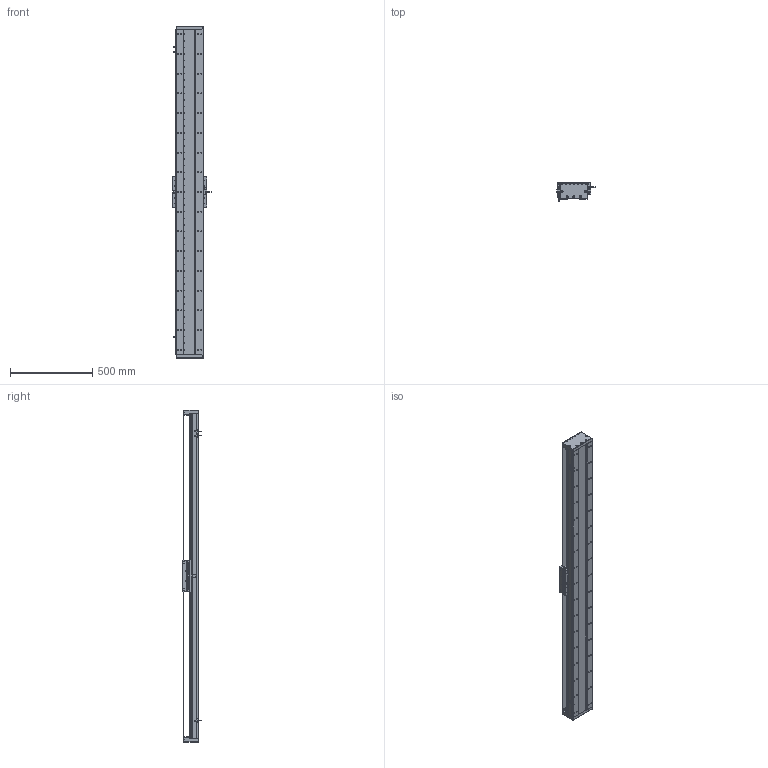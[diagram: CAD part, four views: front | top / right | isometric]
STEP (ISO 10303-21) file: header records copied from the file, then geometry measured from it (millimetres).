
FILE_DESCRIPTION (( 'STEP AP203' ), '1' );
FILE_NAME ('DA-C165-C2-T1740-C010-0.2 直线电机.STEP', '2023-05-11T07:42:53', ( '微软用户' ), ( '微软中国' ), 'SwSTEP 2.0', 'SolidWorks 2019', '' );
FILE_SCHEMA (( 'CONFIG_CONTROL_DESIGN' ));
Length unit declared in the file: millimetre
Products named in the file (18): 葩璃 CKM01-W075-TRL^DA-C165-C2-T-C010-0.2-N 眻盄萇儂; 复件 CU165钢带组件^DA-C165-C2-T-C010-0.2-N 直线电机; 复件 DA165-GDYK-00 钢带压块^复件 CU165钢带组件_DA-C165-C2-T-C010-0.2-N 直线电机; 复件 DMA-010-0.2 读数头^DA-C165-C2-T-C010-0.2-N 直线电机; IU-CU165-L-00 菁釱_L1980; 珨极趙賑雄怢啣wf-C2; DA-C165-C2-T1740-C010-0.2 眻盄萇儂; 复件 DA165-GD-1860-002-00 钢带盖板^复件 CU165钢带组件_DA-C165-C2-T-C010-0.2-N 直线电机; 复件 DA165-GD-DG-H-00 端盖^复件 CU165钢带组件_DA-C165-C2-T-C010-0.2-N 直线电机; IU-CU165-L 菁釱絳寢; 复件 DA165-GYP-00 光电感应片^DA-C165-C2-T-C010-0.2-N 直线电机; 复件 六角薄螺母 M3^DA-C165-C2-T-C010-0.2-N 直线电机_GB_FASTENER_NUT_STNAB M3-C; 复件 DA95-HXJ-00 缓冲橡胶^DA-C165-C2-T-C010-0.2-N 直线电机; 葩璃 PM-T45^DA-C165-C2-T-C010-0.2-N 眻盄萇儂; 葩璃 DA95-GT-T-00^IU-CU165-L 菁釱絳寢_T; 复件 CKM02-W075-C1C2-TP-3.0 一体电机-C2^DA-C165-C2-T-C010-0.2-N 直线电机; 复件 DA165-GDLK-00 钢带拉块^复件 CU165钢带组件_DA-C165-C2-T-C010-0.2-N 直线电机; 复件 XD-U-02L 磁栅尺^DA-C165-C2-T-C010-0.2-N 直线电机_T
Assembly tree (33 placements, depth 3):
  DA-C165-C2-T1740-C010-0.2 眻盄萇儂
    IU-CU165-L 菁釱絳寢
      IU-CU165-L-00 菁釱_L1980
      葩璃 DA95-GT-T-00^IU-CU165-L 菁釱絳寢_T  x4
    复件 XD-U-02L 磁栅尺^DA-C165-C2-T-C010-0.2-N 直线电机_T
    葩璃 PM-T45^DA-C165-C2-T-C010-0.2-N 眻盄萇儂  x3
    葩璃 CKM01-W075-TRL^DA-C165-C2-T-C010-0.2-N 眻盄萇儂
    复件 CU165钢带组件^DA-C165-C2-T-C010-0.2-N 直线电机
      复件 DA165-GD-DG-H-00 端盖^复件 CU165钢带组件_DA-C165-C2-T-C010-0.2-N 直线电机  x2
      复件 DA165-GDYK-00 钢带压块^复件 CU165钢带组件_DA-C165-C2-T-C010-0.2-N 直线电机  x2
      复件 DA165-GD-1860-002-00 钢带盖板^复件 CU165钢带组件_DA-C165-C2-T-C010-0.2-N 直线电机
      复件 DA165-GDLK-00 钢带拉块^复件 CU165钢带组件_DA-C165-C2-T-C010-0.2-N 直线电机  x2
    复件 DA95-HXJ-00 缓冲橡胶^DA-C165-C2-T-C010-0.2-N 直线电机  x4
    复件 DA165-GYP-00 光电感应片^DA-C165-C2-T-C010-0.2-N 直线电机
    复件 DMA-010-0.2 读数头^DA-C165-C2-T-C010-0.2-N 直线电机
    复件 CKM02-W075-C1C2-TP-3.0 一体电机-C2^DA-C165-C2-T-C010-0.2-N 直线电机
    复件 六角薄螺母 M3^DA-C165-C2-T-C010-0.2-N 直线电机_GB_FASTENER_NUT_STNAB M3-C  x6
    珨极趙賑雄怢啣wf-C2
Bounding box: 233 x 111.45 x 2020 mm (x, y, z)
Volume: 11702261.4 mm3; surface area: 3463311.5 mm2
Topology: 70 solids, 70 shells, 3591 faces, 10321 edges, 6561 vertices
Faces by surface type: cylinder 2029, plane 1082, cone 430, torus 46, sphere 4
Entity records: 116587 total; most frequent: CARTESIAN_POINT 30331, ORIENTED_EDGE 17814, DIRECTION 17441, EDGE_CURVE 8907, AXIS2_PLACEMENT_3D 6637, VERTEX_POINT 5797, LINE 4167, VECTOR 4167
